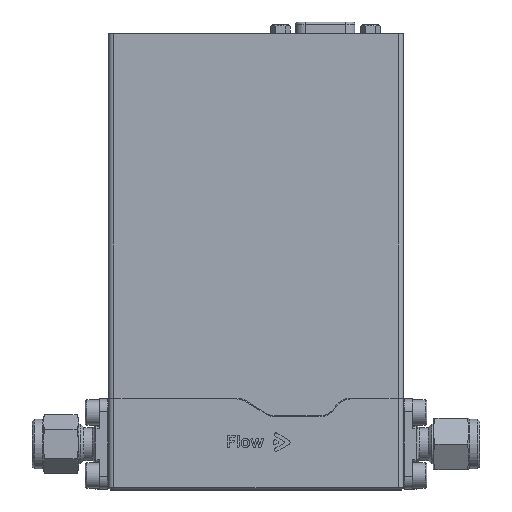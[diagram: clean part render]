
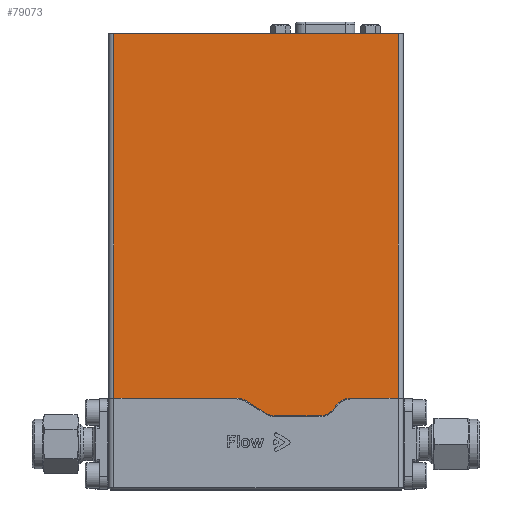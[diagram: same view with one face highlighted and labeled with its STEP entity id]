
A CAD part, top view. The second image highlights one B-rep face of the part: STEP entity #79073.
In plain terms, the highlighted planar face has unit normal (0, 0, 1).
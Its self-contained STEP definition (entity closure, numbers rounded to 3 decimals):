
#3476=PLANE('',#83723);
#6241=FACE_OUTER_BOUND('',#10787,.T.);
#10787=EDGE_LOOP('',(#54605,#54606,#54607,#54608,#54609,#54610,#54611,#54612,
#54613,#54614,#54615,#54616));
#15805=LINE('',#109372,#24166);
#15806=LINE('',#109376,#24167);
#15807=LINE('',#109380,#24168);
#15808=LINE('',#109384,#24169);
#15809=LINE('',#109386,#24170);
#15810=LINE('',#109388,#24171);
#15811=LINE('',#109390,#24172);
#15812=LINE('',#109392,#24173);
#24166=VECTOR('',#89658,1000.);
#24167=VECTOR('',#89661,1000.);
#24168=VECTOR('',#89664,1000.);
#24169=VECTOR('',#89667,1000.);
#24170=VECTOR('',#89668,1000.);
#24171=VECTOR('',#89669,1000.);
#24172=VECTOR('',#89670,1000.);
#24173=VECTOR('',#89671,1000.);
#32483=CIRCLE('',#83724,5.);
#32484=CIRCLE('',#83725,5.);
#32485=CIRCLE('',#83726,5.);
#32486=CIRCLE('',#83727,5.);
#34422=VERTEX_POINT('',#109370);
#34423=VERTEX_POINT('',#109371);
#34424=VERTEX_POINT('',#109373);
#34425=VERTEX_POINT('',#109375);
#34426=VERTEX_POINT('',#109377);
#34427=VERTEX_POINT('',#109379);
#34428=VERTEX_POINT('',#109381);
#34429=VERTEX_POINT('',#109383);
#34430=VERTEX_POINT('',#109385);
#34431=VERTEX_POINT('',#109387);
#34432=VERTEX_POINT('',#109389);
#34433=VERTEX_POINT('',#109391);
#42377=EDGE_CURVE('',#34422,#34423,#15805,.T.);
#42378=EDGE_CURVE('',#34423,#34424,#32483,.T.);
#42379=EDGE_CURVE('',#34424,#34425,#15806,.T.);
#42380=EDGE_CURVE('',#34425,#34426,#32484,.T.);
#42381=EDGE_CURVE('',#34426,#34427,#15807,.T.);
#42382=EDGE_CURVE('',#34427,#34428,#32485,.T.);
#42383=EDGE_CURVE('',#34428,#34429,#15808,.T.);
#42384=EDGE_CURVE('',#34429,#34430,#15809,.T.);
#42385=EDGE_CURVE('',#34431,#34430,#15810,.T.);
#42386=EDGE_CURVE('',#34432,#34431,#15811,.T.);
#42387=EDGE_CURVE('',#34432,#34433,#15812,.T.);
#42388=EDGE_CURVE('',#34433,#34422,#32486,.T.);
#54605=ORIENTED_EDGE('',*,*,#42377,.T.);
#54606=ORIENTED_EDGE('',*,*,#42378,.T.);
#54607=ORIENTED_EDGE('',*,*,#42379,.T.);
#54608=ORIENTED_EDGE('',*,*,#42380,.T.);
#54609=ORIENTED_EDGE('',*,*,#42381,.T.);
#54610=ORIENTED_EDGE('',*,*,#42382,.T.);
#54611=ORIENTED_EDGE('',*,*,#42383,.T.);
#54612=ORIENTED_EDGE('',*,*,#42384,.T.);
#54613=ORIENTED_EDGE('',*,*,#42385,.F.);
#54614=ORIENTED_EDGE('',*,*,#42386,.F.);
#54615=ORIENTED_EDGE('',*,*,#42387,.T.);
#54616=ORIENTED_EDGE('',*,*,#42388,.T.);
#79073=ADVANCED_FACE('',(#6241),#3476,.T.);
#83723=AXIS2_PLACEMENT_3D('',#109369,#89656,#89657);
#83724=AXIS2_PLACEMENT_3D('',#109374,#89659,#89660);
#83725=AXIS2_PLACEMENT_3D('',#109378,#89662,#89663);
#83726=AXIS2_PLACEMENT_3D('',#109382,#89665,#89666);
#83727=AXIS2_PLACEMENT_3D('',#109393,#89672,#89673);
#89656=DIRECTION('center_axis',(0.,0.,1.));
#89657=DIRECTION('ref_axis',(1.,0.,0.));
#89658=DIRECTION('',(0.848,-0.53,0.));
#89659=DIRECTION('center_axis',(0.,0.,1.));
#89660=DIRECTION('ref_axis',(-1.,0.,0.));
#89661=DIRECTION('',(1.,0.,0.));
#89662=DIRECTION('center_axis',(0.,0.,1.));
#89663=DIRECTION('ref_axis',(-1.,0.,0.));
#89664=DIRECTION('',(0.629,0.777,0.));
#89665=DIRECTION('center_axis',(0.,0.,-1.));
#89666=DIRECTION('ref_axis',(-1.,0.,0.));
#89667=DIRECTION('',(1.,0.,0.));
#89668=DIRECTION('',(0.,1.,0.));
#89669=DIRECTION('',(1.,0.,0.));
#89670=DIRECTION('',(0.,1.,0.));
#89671=DIRECTION('',(1.,0.,0.));
#89672=DIRECTION('center_axis',(0.,0.,-1.));
#89673=DIRECTION('ref_axis',(-1.,0.,0.));
#109369=CARTESIAN_POINT('Origin',(19.454,-42.282,147.282));
#109370=CARTESIAN_POINT('',(-13.148,-43.041,147.282));
#109371=CARTESIAN_POINT('',(-7.738,-46.422,147.282));
#109372=CARTESIAN_POINT('',(-6.522,-47.182,147.282));
#109373=CARTESIAN_POINT('',(-5.088,-47.182,147.282));
#109374=CARTESIAN_POINT('Origin',(-5.088,-42.182,147.282));
#109375=CARTESIAN_POINT('',(7.083,-47.182,147.282));
#109376=CARTESIAN_POINT('',(9.468,-47.182,147.282));
#109377=CARTESIAN_POINT('',(10.969,-45.328,147.282));
#109378=CARTESIAN_POINT('Origin',(7.083,-42.182,147.282));
#109379=CARTESIAN_POINT('',(11.935,-44.135,147.282));
#109380=CARTESIAN_POINT('',(13.436,-42.282,147.282));
#109381=CARTESIAN_POINT('',(15.821,-42.282,147.282));
#109382=CARTESIAN_POINT('Origin',(15.821,-47.282,147.282));
#109383=CARTESIAN_POINT('',(28.936,-42.282,147.282));
#109384=CARTESIAN_POINT('',(19.454,-42.282,147.282));
#109385=CARTESIAN_POINT('',(28.936,58.818,147.282));
#109386=CARTESIAN_POINT('',(28.936,-42.282,147.282));
#109387=CARTESIAN_POINT('',(-49.864,58.818,147.282));
#109388=CARTESIAN_POINT('',(-49.864,58.818,147.282));
#109389=CARTESIAN_POINT('',(-49.864,-42.282,147.282));
#109390=CARTESIAN_POINT('',(-49.864,-42.282,147.282));
#109391=CARTESIAN_POINT('',(-15.797,-42.282,147.282));
#109392=CARTESIAN_POINT('',(19.454,-42.282,147.282));
#109393=CARTESIAN_POINT('Origin',(-15.797,-47.282,147.282));
